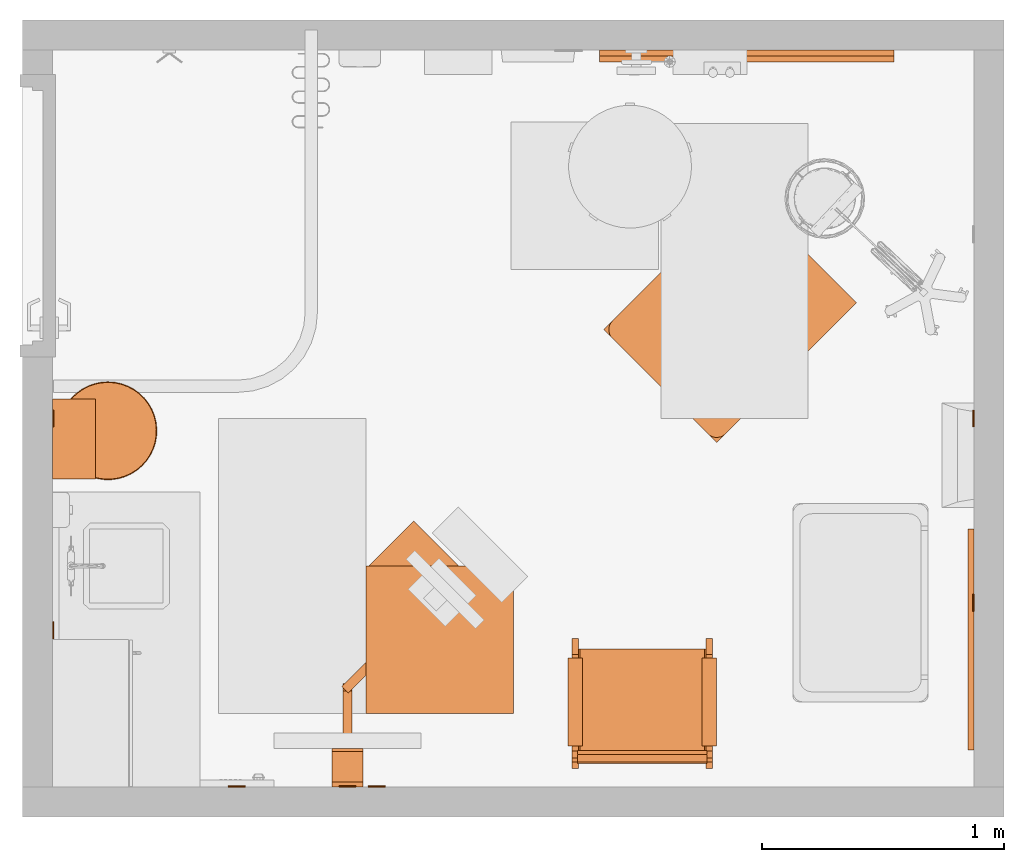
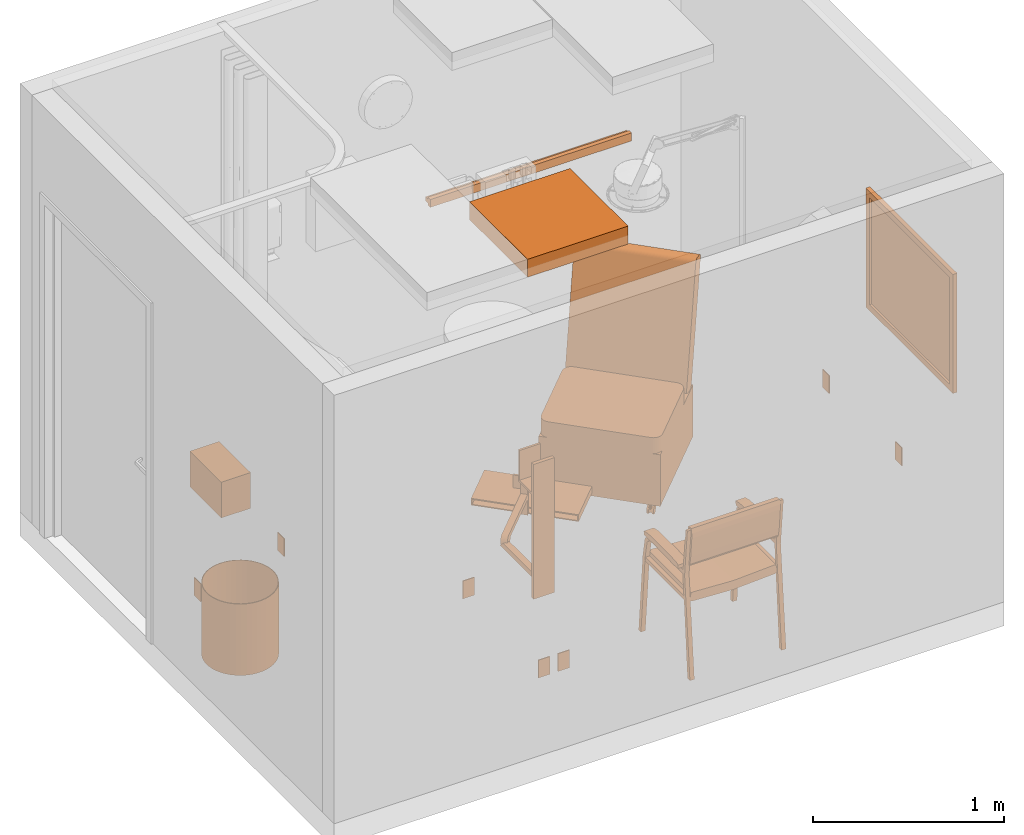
# One storey, part 5 of 9: 15 proxies.
"""IFC2X3 building model written with IfcOpenShell, lengths in feet."""

from ifc_helpers import new_model, entity, si_unit, converted_unit, derived_unit, direction, frame, frame_2d, origin, origin_2d_with_axis, place, context, subcontext, project, spatial, polyline, circle_curve, parameter, trimmed, segment, composite_curve, rectangle, circle, hollow_circle, outline, extrude, source, transform, mapped, type_object, type_shapes, element, save


model = new_model("IFC2X3")

# Units and contexts
model_context = context("Model", 3, precision=0.0001, world=origin(), true_north=direction((6.12303176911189e-17, 1.0)))
body_context = subcontext(model_context, "Body", "Model", "MODEL_VIEW")
ifc_project = project(units=[converted_unit("LENGTHUNIT", "FOOT", entity("IfcRatioMeasure", 0.3048), si_unit("LENGTHUNIT", "METRE"), dimensions=[1, 0, 0, 0, 0, 0, 0]), converted_unit("AREAUNIT", "SQUARE FOOT", entity("IfcRatioMeasure", 0.09290304), si_unit("AREAUNIT", "SQUARE_METRE"), dimensions=[2, 0, 0, 0, 0, 0, 0]), converted_unit("VOLUMEUNIT", "CUBIC FOOT", entity("IfcRatioMeasure", 0.028316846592), si_unit("VOLUMEUNIT", "CUBIC_METRE"), dimensions=[3, 0, 0, 0, 0, 0, 0]), converted_unit("PLANEANGLEUNIT", "DEGREE", entity("IfcRatioMeasure", 0.0174532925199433), si_unit("PLANEANGLEUNIT", "RADIAN"), dimensions=[0, 0, 0, 0, 0, 0, 0]), si_unit("MASSUNIT", "GRAM", prefix="KILO"), derived_unit("MASSDENSITYUNIT", [(si_unit("MASSUNIT", "GRAM", prefix="KILO"), 1), (si_unit("LENGTHUNIT", "METRE"), -3)]), si_unit("TIMEUNIT", "SECOND"), si_unit("FREQUENCYUNIT", "HERTZ"), si_unit("THERMODYNAMICTEMPERATUREUNIT", "DEGREE_CELSIUS"), derived_unit("THERMALTRANSMITTANCEUNIT", [(si_unit("MASSUNIT", "GRAM", prefix="KILO"), 1), (si_unit("THERMODYNAMICTEMPERATUREUNIT", "KELVIN"), -1), (si_unit("TIMEUNIT", "SECOND"), -3)]), derived_unit("VOLUMETRICFLOWRATEUNIT", [(si_unit("LENGTHUNIT", "METRE"), 3), (si_unit("TIMEUNIT", "SECOND"), -1)]), si_unit("ELECTRICCURRENTUNIT", "AMPERE"), si_unit("ELECTRICVOLTAGEUNIT", "VOLT"), si_unit("POWERUNIT", "WATT"), si_unit("FORCEUNIT", "NEWTON"), si_unit("ILLUMINANCEUNIT", "LUX"), si_unit("LUMINOUSFLUXUNIT", "LUMEN"), si_unit("LUMINOUSINTENSITYUNIT", "CANDELA"), derived_unit("USERDEFINED", [(si_unit("MASSUNIT", "GRAM", prefix="KILO"), -1), (si_unit("LENGTHUNIT", "METRE"), -2), (si_unit("TIMEUNIT", "SECOND"), 3), (si_unit("LUMINOUSFLUXUNIT", "LUMEN"), 1)]), derived_unit("LINEARVELOCITYUNIT", [(si_unit("LENGTHUNIT", "METRE"), 1), (si_unit("TIMEUNIT", "SECOND"), -1)]), si_unit("PRESSUREUNIT", "PASCAL"), derived_unit("USERDEFINED", [(si_unit("LENGTHUNIT", "METRE"), -2), (si_unit("MASSUNIT", "GRAM", prefix="KILO"), 1), (si_unit("TIMEUNIT", "SECOND"), -2)])], contexts=[model_context])

# Site, building, storey, space
site_placement = place(None, origin())
site = spatial("IfcSite", under=ifc_project, at=site_placement, Name="Default", CompositionType="ELEMENT")
building_placement = place(site_placement, origin())
building = spatial("IfcBuilding", under=site, at=building_placement, Name="OUTPATIENT / PACT CLINIC (Ch. 265)", CompositionType="ELEMENT")
storey_placement = place(building_placement, origin())
storey = spatial("IfcBuildingStorey", under=building, at=storey_placement, Name="DATUM", CompositionType="ELEMENT", Elevation=0.0)
space_placement = place(storey_placement, origin())
space = spatial("IfcSpace", under=storey, at=space_placement, Name="WRTM2", CompositionType="ELEMENT", InteriorOrExteriorSpace="INTERNAL")

# Proxies
building_element_proxy_type_1 = type_object("IfcBuildingElementProxyType", Name="A5080 - Dispenser, Paper Towel", PredefinedType="NOTDEFINED")
shared_shape_1 = source(origin(), body_context, "Body", "SweptSolid", [
    extrude(rectangle(XDim=0.58333333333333, YDim=1.08333333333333, at=frame_2d((9.99200722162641e-16, 0.0), x_axis=(1.0, 0.0))), frame((0.0, -0.291666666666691, 0.0), z_axis=(0.0, 0.0, 1.0), x_axis=(0.0, 1.0, 0.0)), (0.0, 0.0, 1.0), 0.75),
])
type_shapes(building_element_proxy_type_1, [shared_shape_1])
proxy_1_placement = place(space_placement, frame((209.711487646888, -858.099980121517, 3.5), z_axis=(0.0, 0.0, 1.0), x_axis=(0.0, 1.0, 0.0)))
element("IfcBuildingElementProxy", 1, at=proxy_1_placement, inside=space, type_object=building_element_proxy_type_1, Name="A5080 - Dispenser, Paper Towel:A5080 - Dispenser, Paper Towel", ObjectType="A5080 - Dispenser, Paper Towel", context=body_context, shape_type="MappedRepresentation", body=[
    mapped(shared_shape_1, transform((0.0, 0.0, 0.0), scale=1.0)),
])
building_element_proxy_type_2 = type_object("IfcBuildingElementProxyType", Name="F0205 - Chair, Side With Arms", PredefinedType="NOTDEFINED")
shared_shape_2 = source(origin(), body_context, "Body", "SweptSolid", [
    extrude(outline(polyline([(-0.104007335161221, -0.374369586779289), (-0.027711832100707, -0.374369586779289), (-0.0197350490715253, -0.338348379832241), (0.00592434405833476, -0.182113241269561), (0.0162560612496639, -0.135457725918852), (0.0457826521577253, -0.00212284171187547), (0.0856087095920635, 0.177721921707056), (0.112798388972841, 0.276572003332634), (0.120257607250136, 0.307674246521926), (0.129202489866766, 0.415216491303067), (0.045581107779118, 0.433734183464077), (0.0167028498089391, 0.395704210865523), (-0.0364083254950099, 0.222671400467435), (-0.125070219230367, -0.177704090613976), (-0.13682888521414, -0.27538652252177), (-0.128352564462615, -0.36942248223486), (-0.104007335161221, -0.374369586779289)])), frame((-0.891159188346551, -0.878769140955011, 2.73061112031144), z_axis=(0.0, 1.0, 0.0), x_axis=(0.991475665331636, 0.0, -0.130291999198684)), (0.0, 0.0, 1.0), 1.75919993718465),
    extrude(outline(polyline([(0.0907668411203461, -0.842703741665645), (0.261538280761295, -0.842703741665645), (0.265730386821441, -0.773999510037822), (0.127479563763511, 0.0287496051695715), (-0.0923338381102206, 0.813085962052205), (-0.125373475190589, 0.873420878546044), (-0.279635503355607, 0.800086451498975), (-0.270660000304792, 0.752608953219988), (-0.0560029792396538, -0.0126173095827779), (0.0784907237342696, -0.795927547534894), (0.0907668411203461, -0.842703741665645)])), frame((-0.90556950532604, 0.000822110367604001, 1.62079321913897), z_axis=(1.0, 0.0, 0.0), x_axis=(0.0, -0.219936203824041, -0.975514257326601)), (0.0, 0.0, 1.0), 1.47211210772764),
    extrude(outline(polyline([(-0.552031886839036, -0.234422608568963), (-0.484734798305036, -0.234422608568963), (-0.233837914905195, -0.160903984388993), (0.324339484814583, 0.0422559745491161), (0.453697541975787, 0.101150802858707), (0.564536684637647, 0.176717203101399), (0.51204038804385, 0.250193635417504), (0.420212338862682, 0.216770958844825), (0.254858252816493, 0.145732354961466), (-0.246233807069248, -0.0366502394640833), (-0.436544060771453, -0.0986810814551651), (-0.576302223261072, -0.167740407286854), (-0.552031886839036, -0.234422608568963)])), frame((-0.1510824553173, -1.00916916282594, 2.22827697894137), z_axis=(0.0, 1.0, 0.0), x_axis=(0.939692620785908, 0.0, 0.34202014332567)), (0.0, 0.0, 1.0), 0.198199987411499),
    extrude(outline(polyline([(-0.525375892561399, -0.221085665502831), (-0.458078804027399, -0.221085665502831), (-0.207181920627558, -0.147567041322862), (0.350995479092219, 0.0555929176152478), (0.480353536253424, 0.114487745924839), (0.591192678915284, 0.190054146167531), (0.551062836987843, 0.246221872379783), (0.114629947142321, 0.0873732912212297), (0.281514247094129, 0.159069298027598), (-0.219577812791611, -0.0233132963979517), (-0.409888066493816, -0.0853441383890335), (-0.549646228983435, -0.154403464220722), (-0.525375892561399, -0.221085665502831)])), frame((-0.180692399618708, 0.814330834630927, 2.23169271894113), z_axis=(0.0, 1.0, 0.0), x_axis=(0.939692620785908, 0.0, 0.34202014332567)), (0.0, 0.0, 1.0), 0.196499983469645),
    extrude(outline(polyline([(0.0166377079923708, -0.666422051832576), (0.099971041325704, -0.666422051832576), (-0.0172324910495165, 0.673220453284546), (-0.0993762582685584, 0.659623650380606), (0.0166377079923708, -0.666422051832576)])), frame((-0.182442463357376, -0.954369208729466, 1.61480726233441), z_axis=(0.0, 1.0, 0.0), x_axis=(0.0871557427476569, 0.0, -0.996194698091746)), (0.0, 0.0, 1.0), 0.0833333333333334),
    extrude(outline(polyline([(0.0166377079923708, -0.666422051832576), (0.099971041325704, -0.666422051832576), (-0.0172324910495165, 0.673220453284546), (-0.0993762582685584, 0.659623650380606), (0.0166377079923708, -0.666422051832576)])), frame((-0.182442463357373, 0.867430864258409, 1.61480726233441), z_axis=(0.0, 1.0, 0.0), x_axis=(0.0871557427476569, 0.0, -0.996194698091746)), (0.0, 0.0, 1.0), 0.0833333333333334),
    extrude(outline(polyline([(0.811855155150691, -1.61770011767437), (0.895188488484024, -1.61770011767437), (0.71143329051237, 0.489199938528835), (0.806416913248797, 1.46713632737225), (0.751033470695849, 1.46713632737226), (0.656855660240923, 0.571094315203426), (-0.516612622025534, 0.571094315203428), (-0.653571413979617, 0.441277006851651), (-0.728375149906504, 0.0391907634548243), (-0.871611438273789, -1.61770011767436), (-0.791571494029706, -1.61770011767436), (-0.646611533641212, 0.0391998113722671), (-0.578172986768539, 0.407071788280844), (-0.496044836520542, 0.48919993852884), (0.649788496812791, 0.489199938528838), (0.811855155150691, -1.61770011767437)])), frame((-0.163768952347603, -0.954369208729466, 1.61770011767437), z_axis=(0.0, 1.0, 0.0), x_axis=(-1.0, 0.0, 0.0)), (0.0, 0.0, 1.0), 0.0885709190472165),
    extrude(outline(polyline([(0.811855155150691, -1.61770011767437), (0.895188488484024, -1.61770011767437), (0.71143329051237, 0.489199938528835), (0.806416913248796, 1.46713632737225), (0.751033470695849, 1.46713632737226), (0.656855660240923, 0.571094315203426), (-0.516612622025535, 0.571094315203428), (-0.653571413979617, 0.441277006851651), (-0.728375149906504, 0.0391907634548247), (-0.871611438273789, -1.61770011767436), (-0.791571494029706, -1.61770011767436), (-0.646611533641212, 0.0391998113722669), (-0.578172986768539, 0.407071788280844), (-0.496044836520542, 0.48919993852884), (0.649788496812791, 0.489199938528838), (0.811855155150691, -1.61770011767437)])), frame((-0.1637689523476, 0.867430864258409, 1.61770011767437), z_axis=(0.0, 1.0, 0.0), x_axis=(-1.0, 0.0, 0.0)), (0.0, 0.0, 1.0), 0.0885709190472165),
])
type_shapes(building_element_proxy_type_2, [shared_shape_2])
proxy_2_placement = place(space_placement, frame((217.711487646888, -861.514346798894, 0.0), z_axis=(0.0, 0.0, 1.0), x_axis=(0.0, 1.0, 0.0)))
element("IfcBuildingElementProxy", 2, at=proxy_2_placement, inside=space, type_object=building_element_proxy_type_2, Name="F0205 - Chair, Side With Arms:F0205 - Chair, Side With Arms", ObjectType="F0205 - Chair, Side With Arms", context=body_context, shape_type="MappedRepresentation", body=[
    mapped(shared_shape_2, transform((0.0, 0.0, 0.0), scale=1.0)),
])
building_element_proxy_type_3 = type_object("IfcBuildingElementProxyType", Name="F2000 - Basket, Wastepaper", PredefinedType="NOTDEFINED")
shared_shape_3 = source(origin(), body_context, "Body", "SweptSolid", [
    extrude(circle(Radius=0.666666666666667, at=frame_2d((0.0, -1.07702971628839e-15), x_axis=(1.0, 0.0))), origin(), (0.0, 0.0, 1.0), 0.0104166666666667),
    extrude(hollow_circle(Radius=0.666666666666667, WallThickness=0.0104166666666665, at=frame_2d((0.0, -1.07702971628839e-15), x_axis=(1.0, 0.0))), frame((0.0, 0.0, 0.0104166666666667)), (0.0, 0.0, 1.0), 1.48958333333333),
])
type_shapes(building_element_proxy_type_3, [shared_shape_3])
proxy_3_placement = place(space_placement, frame((210.461487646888, -857.989970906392, 0.0), z_axis=(0.0, 0.0, 1.0), x_axis=(0.0, 1.0, 0.0)))
element("IfcBuildingElementProxy", 3, at=proxy_3_placement, inside=space, type_object=building_element_proxy_type_3, Name="F2000 - Basket, Wastepaper:F2000 - Basket, Wastepaper", ObjectType="F2000 - Basket, Wastepaper", context=body_context, shape_type="MappedRepresentation", body=[
    mapped(shared_shape_3, transform((0.0, 0.0, 0.0), scale=1.0)),
])
building_element_proxy_type_4 = type_object("IfcBuildingElementProxyType", Name="F3025 - Board, Bulletin, Wood Framed", PredefinedType="NOTDEFINED")
shared_shape_4 = source(origin(), body_context, "Body", "SweptSolid", [
    extrude(rectangle(XDim=0.0416666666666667, YDim=2.74999999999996, at=origin_2d_with_axis()), frame((0.0, -0.020833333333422, 0.124999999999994), z_axis=(0.0, 0.0, 1.0), x_axis=(0.0, 1.0, 0.0)), (0.0, 0.0, 1.0), 2.25000000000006),
    extrude(outline(polyline([(-1.49999999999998, -1.25), (1.49999999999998, -1.25), (1.49999999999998, 1.25), (-1.49999999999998, 1.25), (-1.49999999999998, -1.25)]), holes=[polyline([(-1.37499999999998, -1.125), (-1.37499999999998, 1.12500000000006), (1.37499999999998, 1.12500000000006), (1.37499999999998, -1.125), (-1.37499999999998, -1.125)])]), frame((0.0, -0.0833333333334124, 1.25), z_axis=(0.0, 1.0, 0.0), x_axis=(-1.0, 0.0, 0.0)), (0.0, 0.0, 1.0), 0.0833333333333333),
])
type_shapes(building_element_proxy_type_4, [shared_shape_4])
proxy_4_placement = place(space_placement, frame((222.211487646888, -860.823304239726, 4.0), z_axis=(0.0, 0.0, 1.0), x_axis=(0.0, -1.0, 0.0)))
element("IfcBuildingElementProxy", 4, at=proxy_4_placement, inside=space, type_object=building_element_proxy_type_4, Name="F3025 - Board, Bulletin, Wood Framed:F3025 - Board, Bulletin, Wood Framed", ObjectType="F3025 - Board, Bulletin, Wood Framed", context=body_context, shape_type="MappedRepresentation", body=[
    mapped(shared_shape_4, transform((0.0, 0.0, 0.0), scale=1.0)),
])
building_element_proxy_type_5 = type_object("IfcBuildingElementProxyType", Name="M1803 - Workstation, Computer, Wall Mounted", PredefinedType="NOTDEFINED")
shared_shape_5 = source(origin(), body_context, "Body", "SweptSolid", [
    extrude(circle(Radius=0.104166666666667, at=frame_2d((1.0547118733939e-15, 3.336446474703e-16), x_axis=(1.0, 0.0))), frame((-0.0810226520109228, -1.34888430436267, 0.333333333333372), z_axis=(0.707106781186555, -0.70710678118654, 0.0), x_axis=(0.0, 0.0, 1.0)), (0.0, 0.0, 1.0), 0.125000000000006),
    extrude(outline(composite_curve([segment(polyline([(0.0520833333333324, -0.592708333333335), (0.0520833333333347, 0.644791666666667)]), True, "CONTINUOUS"), segment(polyline([(0.0520833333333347, 0.644791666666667), (-0.0520833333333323, 0.644791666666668)]), True, "CONTINUOUS"), segment(polyline([(-0.0520833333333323, 0.644791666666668), (-0.0520833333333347, -0.696875)]), True, "CONTINUOUS"), segment(trimmed(circle_curve(frame_2d((0.0520833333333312, -0.696875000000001), x_axis=(1.0, 0.0)), 0.104166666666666), [parameter(89.9999999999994)], [parameter(180.0)], True, "PARAMETER"), False, "CONTINUOUS")], self_intersect=False)), frame((-0.0624999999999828, -0.711458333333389, 0.281250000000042), z_axis=(-1.0, 0.0, 0.0), x_axis=(0.0, 0.0, 1.0)), (0.0, 0.0, -1.0), 0.125000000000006),
    extrude(outline(composite_curve([segment(polyline([(0.0520833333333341, -0.651041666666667), (0.0520833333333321, 0.598958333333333)]), True, "CONTINUOUS"), segment(polyline([(0.0520833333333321, 0.598958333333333), (-0.0520833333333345, 0.598958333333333)]), True, "CONTINUOUS"), segment(polyline([(-0.0520833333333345, 0.598958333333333), (-0.0520833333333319, -0.546875)]), True, "CONTINUOUS"), segment(trimmed(circle_curve(frame_2d((-0.0520833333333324, -0.651041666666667), x_axis=(1.0, 0.0)), 0.104166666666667), [parameter(1.01777749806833e-13)], [parameter(90.0000000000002)], True, "PARAMETER"), False, "CONTINUOUS")], self_intersect=False)), frame((-0.452990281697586, -1.89762862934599, 0.385416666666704), z_axis=(0.707106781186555, -0.70710678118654, 0.0), x_axis=(0.0, 0.0, 1.0)), (0.0, 0.0, -1.0), 0.125000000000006),
    extrude(outline(polyline([(-0.0729166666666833, -0.95833333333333), (0.0729166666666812, -0.95833333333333), (0.0729166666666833, 0.95833333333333), (-0.0729166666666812, 0.95833333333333), (-0.0729166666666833, -0.95833333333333)]), holes=[polyline([(-0.05208333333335, -0.937499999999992), (-0.052083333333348, 0.937499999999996), (0.0520833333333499, 0.937499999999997), (0.0520833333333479, -0.937499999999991), (-0.05208333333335, -0.937499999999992)])]), frame((-1.5747857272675, -2.93103572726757, 0.0729166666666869), z_axis=(0.707106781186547, 0.707106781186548, 0.0), x_axis=(0.0, 0.0, -1.0)), (0.0, 0.0, 1.0), 0.883333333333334),
    extrude(rectangle(XDim=0.0666666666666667, YDim=0.416666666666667, at=origin_2d_with_axis()), frame((0.0, -0.0333333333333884, 0.0), z_axis=(0.0, 0.0, 1.0), x_axis=(0.0, 1.0, 0.0)), (0.0, 0.0, 1.0), 0.11949518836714),
    extrude(outline(polyline([(-0.208333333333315, -0.0270833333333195), (-0.0625000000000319, -0.0270833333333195), (-0.0625000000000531, 0.014583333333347), (0.0625000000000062, 0.014583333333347), (0.0625000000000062, -0.0270833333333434), (0.208333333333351, -0.0270833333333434), (0.208333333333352, 0.0395833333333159), (-0.208333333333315, 0.0395833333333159), (-0.208333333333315, -0.0270833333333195)])), frame((0.0, -0.0395833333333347, 0.119495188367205)), (0.0, 0.0, 1.0), 2.0471714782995),
    extrude(outline(polyline([(-0.194444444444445, 0.125), (0.430555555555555, 0.125), (0.430555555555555, 0.166666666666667), (-0.236111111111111, 0.166666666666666), (-0.236111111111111, -0.291666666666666), (-0.194444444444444, -0.291666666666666), (-0.194444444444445, 0.125)])), frame((-0.208333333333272, -0.358333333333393, 2.40277777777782), z_axis=(1.0, 0.0, 0.0), x_axis=(0.0, 0.0, 1.0)), (0.0, 0.0, 1.0), 0.416666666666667),
    extrude(rectangle(XDim=0.0416666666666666, YDim=0.416666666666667, at=frame_2d((4.16333634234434e-17, -5.55111512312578e-17), x_axis=(1.0, 0.0))), frame((-0.964906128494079, -2.3211561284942, 0.503601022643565), z_axis=(0.0, 0.0, 1.0), x_axis=(0.707106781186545, 0.70710678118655, 0.0)), (0.0, 0.0, 1.0), 0.267232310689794),
    extrude(rectangle(XDim=0.125000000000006, YDim=0.0416666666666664, at=frame_2d((-1.94289029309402e-16, 1.16226472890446e-16), x_axis=(1.0, 0.0))), frame((-0.935443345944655, -2.29169334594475, 0.0), z_axis=(0.0, 0.0, 1.0), x_axis=(-0.707106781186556, 0.70710678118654, 0.0)), (0.0, 0.0, 1.0), 0.666666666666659),
    extrude(rectangle(XDim=0.0666666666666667, YDim=0.416666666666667, at=origin_2d_with_axis()), frame((0.0, -0.0333333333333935, 2.16666666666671), z_axis=(0.0, 0.0, 1.0), x_axis=(0.0, 1.0, 0.0)), (0.0, 0.0, 1.0), 0.666666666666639),
])
type_shapes(building_element_proxy_type_5, [shared_shape_5])
proxy_5_placement = place(space_placement, frame((213.711507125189, -862.823304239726, 3.0), z_axis=(0.0, 0.0, 1.0), x_axis=(-1.0, 0.0, 0.0)))
element("IfcBuildingElementProxy", 5, at=proxy_5_placement, inside=space, type_object=building_element_proxy_type_5, Name="M1803 - Workstation, Computer, Wall Mounted:M1803 - Workstation, Computer, Wall Mounted", ObjectType="M1803 - Workstation, Computer, Wall Mounted", context=body_context, shape_type="MappedRepresentation", body=[
    mapped(shared_shape_5, transform((0.0, 0.0, 0.0), scale=1.0)),
])
building_element_proxy_type_6 = type_object("IfcBuildingElementProxyType", Name="Exam/Treatment Table with Cabinet", PredefinedType="NOTDEFINED")
shared_shape_6 = source(origin(), body_context, "Body", "SweptSolid", [
    extrude(circle(Radius=0.0833333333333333, at=frame_2d((0.0, -1.38777878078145e-16), x_axis=(1.0, 0.0))), frame((-0.843750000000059, 0.432291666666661, 0.0833333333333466), z_axis=(1.0, 0.0, 0.0), x_axis=(0.0, 1.0, 0.0)), (0.0, 0.0, 1.0), 0.0312500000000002),
    extrude(circle(Radius=0.0260416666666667, at=frame_2d((0.0, -5.55111512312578e-17), x_axis=(1.0, 0.0))), frame((-0.87500000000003, 0.463541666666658, 0.0801325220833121), z_axis=(0.0, 0.0, 1.0), x_axis=(-1.0, 0.0, 0.0)), (0.0, 0.0, 1.0), 0.211534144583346),
    extrude(circle(Radius=0.0625, at=frame_2d((0.0, -2.77555756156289e-16), x_axis=(1.0, 0.0))), frame((-0.90625000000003, 0.432291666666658, 0.0833333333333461), z_axis=(1.0, 0.0, 0.0), x_axis=(0.0, -1.0, 0.0)), (0.0, 0.0, 1.0), 0.0625),
    extrude(circle(Radius=0.0833333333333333, at=frame_2d((0.0, -1.38777878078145e-16), x_axis=(1.0, 0.0))), frame((-0.93750000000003, 0.432291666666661, 0.0833333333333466), z_axis=(1.0, 0.0, 0.0), x_axis=(0.0, 1.0, 0.0)), (0.0, 0.0, 1.0), 0.0312500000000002),
    extrude(circle(Radius=0.0833333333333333, at=frame_2d((0.0, -3.7470027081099e-16), x_axis=(1.0, 0.0))), frame((0.81250000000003, 0.432291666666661, 0.083333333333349), z_axis=(1.0, 0.0, 0.0), x_axis=(0.0, 1.0, 0.0)), (0.0, 0.0, 1.0), 0.0312500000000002),
    extrude(circle(Radius=0.0260416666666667, at=frame_2d((0.0, -5.55111512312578e-17), x_axis=(1.0, 0.0))), frame((0.875000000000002, 0.463541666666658, 0.0801325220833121)), (0.0, 0.0, 1.0), 0.211534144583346),
    extrude(circle(Radius=0.0625, at=frame_2d((0.0, -1.11022302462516e-16), x_axis=(1.0, 0.0))), frame((0.843750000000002, 0.432291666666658, 0.0833333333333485), z_axis=(1.0, 0.0, 0.0), x_axis=(0.0, -1.0, 0.0)), (0.0, 0.0, 1.0), 0.0625),
    extrude(circle(Radius=0.0833333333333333, at=frame_2d((0.0, -3.7470027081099e-16), x_axis=(1.0, 0.0))), frame((0.906250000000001, 0.432291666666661, 0.083333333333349), z_axis=(1.0, 0.0, 0.0), x_axis=(0.0, 1.0, 0.0)), (0.0, 0.0, 1.0), 0.0312500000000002),
    extrude(circle(Radius=0.0833333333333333, at=frame_2d((0.0, -1.38777878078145e-16), x_axis=(1.0, 0.0))), frame((-0.843750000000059, -1.41145833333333, 0.0833333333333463), z_axis=(1.0, 0.0, 0.0), x_axis=(0.0, -1.0, 0.0)), (0.0, 0.0, 1.0), 0.0312500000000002),
    extrude(circle(Radius=0.0260416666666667, at=origin_2d_with_axis()), frame((-0.87500000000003, -1.44270833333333, 0.0801325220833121), z_axis=(0.0, 0.0, 1.0), x_axis=(-1.0, 0.0, 0.0)), (0.0, 0.0, 1.0), 0.211534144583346),
    extrude(circle(Radius=0.0625, at=frame_2d((0.0, -2.77555756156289e-16), x_axis=(1.0, 0.0))), frame((-0.90625000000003, -1.41145833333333, 0.0833333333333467), z_axis=(1.0, 0.0, 0.0), x_axis=(0.0, 1.0, 0.0)), (0.0, 0.0, 1.0), 0.0625),
    extrude(circle(Radius=0.0833333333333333, at=frame_2d((0.0, -1.38777878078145e-16), x_axis=(1.0, 0.0))), frame((-0.93750000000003, -1.41145833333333, 0.0833333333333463), z_axis=(1.0, 0.0, 0.0), x_axis=(0.0, -1.0, 0.0)), (0.0, 0.0, 1.0), 0.0312500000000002),
    extrude(circle(Radius=0.0833333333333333, at=frame_2d((0.0, -3.7470027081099e-16), x_axis=(1.0, 0.0))), frame((0.81250000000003, -1.41145833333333, 0.0833333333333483), z_axis=(1.0, 0.0, 0.0), x_axis=(0.0, -1.0, 0.0)), (0.0, 0.0, 1.0), 0.0312500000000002),
    extrude(circle(Radius=0.0260416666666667, at=origin_2d_with_axis()), frame((0.875000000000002, -1.44270833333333, 0.0801325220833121)), (0.0, 0.0, 1.0), 0.211534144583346),
    extrude(circle(Radius=0.0625, at=frame_2d((0.0, -1.11022302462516e-16), x_axis=(1.0, 0.0))), frame((0.843750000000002, -1.41145833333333, 0.0833333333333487), z_axis=(1.0, 0.0, 0.0), x_axis=(0.0, 1.0, 0.0)), (0.0, 0.0, 1.0), 0.0625),
    extrude(circle(Radius=0.0833333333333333, at=frame_2d((0.0, -3.7470027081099e-16), x_axis=(1.0, 0.0))), frame((0.906250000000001, -1.41145833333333, 0.0833333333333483), z_axis=(1.0, 0.0, 0.0), x_axis=(0.0, -1.0, 0.0)), (0.0, 0.0, 1.0), 0.0312500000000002),
    extrude(rectangle(XDim=2.1666666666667, YDim=2.18316882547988, at=origin_2d_with_axis()), frame((0.0, -0.491748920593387, 0.291666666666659), z_axis=(0.0, 0.0, 1.0), x_axis=(-1.0, 0.0, 0.0)), (0.0, 0.0, 1.0), 1.08333333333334),
    extrude(outline(composite_curve([segment(trimmed(circle_curve(frame_2d((-0.221258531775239, -1.14772335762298), x_axis=(1.0, 0.0)), 0.0833333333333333), [parameter(255.0)], [parameter(345.0)], True, "PARAMETER"), True, "CONTINUOUS"), segment(polyline([(-0.140764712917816, -1.16929161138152), (0.462739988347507, 1.08301859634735)]), True, "CONTINUOUS"), segment(trimmed(circle_curve(frame_2d((0.382246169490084, 1.10458685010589), x_axis=(1.0, 0.0)), 0.0833333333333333), [parameter(345.000000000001)], [parameter(75.0000000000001)], True, "PARAMETER"), True, "CONTINUOUS"), segment(polyline([(0.403814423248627, 1.18508066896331), (0.242826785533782, 1.2282171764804)]), True, "CONTINUOUS"), segment(trimmed(circle_curve(frame_2d((0.221258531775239, 1.14772335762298), x_axis=(1.0, 0.0)), 0.0833333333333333), [parameter(74.9999999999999)], [parameter(165.0)], True, "PARAMETER"), True, "CONTINUOUS"), segment(polyline([(0.140764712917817, 1.16929161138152), (-0.462739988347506, -1.08301859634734)]), True, "CONTINUOUS"), segment(trimmed(circle_curve(frame_2d((-0.382246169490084, -1.10458685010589), x_axis=(1.0, 0.0)), 0.0833333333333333), [parameter(165.0)], [parameter(255.0)], True, "PARAMETER"), True, "CONTINUOUS"), segment(polyline([(-0.403814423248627, -1.18508066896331), (-0.242826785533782, -1.2282171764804)]), True, "CONTINUOUS")], self_intersect=False)), frame((-1.08333333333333, 0.632933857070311, 2.62668441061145), z_axis=(1.0, 0.0, 0.0), x_axis=(0.0, 1.0, 0.0)), (0.0, 0.0, 1.0), 2.16666666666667),
    extrude(outline(composite_curve([segment(polyline([(-0.916666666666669, -0.854166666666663), (0.91666666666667, -0.854166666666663)]), True, "CONTINUOUS"), segment(trimmed(circle_curve(frame_2d((0.916666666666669, -0.687499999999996), x_axis=(-1.0, 0.0)), 0.166666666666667), [parameter(90.0000000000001)], [parameter(180.0)], True, "PARAMETER"), True, "CONTINUOUS"), segment(polyline([(1.08333333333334, -0.687499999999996), (1.08333333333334, 0.687499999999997)]), True, "CONTINUOUS"), segment(trimmed(circle_curve(frame_2d((0.916666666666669, 0.687499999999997), x_axis=(-1.0, 0.0)), 0.166666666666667), [parameter(180.0)], [parameter(270.0)], True, "PARAMETER"), True, "CONTINUOUS"), segment(polyline([(0.916666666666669, 0.854166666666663), (-0.91666666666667, 0.854166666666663)]), True, "CONTINUOUS"), segment(trimmed(circle_curve(frame_2d((-0.916666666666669, 0.687499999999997), x_axis=(-1.0, 0.0)), 0.166666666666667), [parameter(270.0)], [parameter(0.0)], True, "PARAMETER"), True, "CONTINUOUS"), segment(polyline([(-1.08333333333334, 0.687499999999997), (-1.08333333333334, -0.687499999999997)]), True, "CONTINUOUS"), segment(trimmed(circle_curve(frame_2d((-0.916666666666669, -0.687499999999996), x_axis=(-1.0, 0.0)), 0.166666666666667), [parameter(0.0)], [parameter(90.0000000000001)], True, "PARAMETER"), True, "CONTINUOUS")], self_intersect=False)), frame((0.0, -0.729166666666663, 1.375), z_axis=(0.0, 0.0, 1.0), x_axis=(-1.0, 0.0, 0.0)), (0.0, 0.0, 1.0), 0.333333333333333),
])
type_shapes(building_element_proxy_type_6, [shared_shape_6])
proxy_6_placement = place(space_placement, frame((219.072917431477, -856.264177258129, 0.0), z_axis=(0.0, 0.0, 1.0), x_axis=(0.707106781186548, -0.707106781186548, 0.0)))
element("IfcBuildingElementProxy", 6, at=proxy_6_placement, inside=space, type_object=building_element_proxy_type_6, Name="M9025 - Exam Table:Exam/Treatment Table with Cabinet", ObjectType="Exam/Treatment Table with Cabinet", context=body_context, shape_type="MappedRepresentation", body=[
    mapped(shared_shape_6, transform((0.0, 0.0, 0.0), scale=1.0)),
])
building_element_proxy_type_7 = type_object("IfcBuildingElementProxyType", Name="A1132 - Rail, Accessory Mounting", PredefinedType="NOTDEFINED")
shared_shape_7 = source(origin(), body_context, "Body", "SweptSolid", [
    extrude(outline(polyline([(0.0416666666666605, 0.0), (0.0833333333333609, 0.0), (0.083333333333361, 0.0833333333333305), (-0.0833333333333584, 0.0833333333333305), (-0.0833333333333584, 0.0), (-0.0416666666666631, 0.0), (-0.0416666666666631, -0.0833333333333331), (0.0416666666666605, -0.0833333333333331), (0.0416666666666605, 0.0)])), frame((-2.0, -0.0833333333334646, 0.0833333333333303), z_axis=(1.0, 0.0, 0.0), x_axis=(0.0, 0.0, 1.0)), (0.0, 0.0, 1.0), 4.0),
])
type_shapes(building_element_proxy_type_7, [shared_shape_7])
proxy_7_placement = place(space_placement, frame((219.128154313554, -852.823304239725, 4.0)))
element("IfcBuildingElementProxy", 7, at=proxy_7_placement, inside=space, type_object=building_element_proxy_type_7, Name="A1132 - Rail, Accessory Mounting:A1132 - Rail, Accessory Mounting", ObjectType="A1132 - Rail, Accessory Mounting", context=body_context, shape_type="MappedRepresentation", body=[
    mapped(shared_shape_7, transform((0.0, 0.0, 0.0), scale=1.0)),
])
building_element_proxy_type_8 = type_object("IfcBuildingElementProxyType", Name="Duplex", PredefinedType="NOTDEFINED")
shared_shape_8 = source(origin(), body_context, "Body", "SweptSolid", [
    extrude(rectangle(XDim=0.0156249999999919, YDim=0.229166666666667, at=origin_2d_with_axis()), frame((0.0, 0.210937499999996, 0.0), z_axis=(0.0, 0.0, 1.0), x_axis=(0.0, 1.0, 0.0)), (0.0, 0.0, 1.0), 0.37500000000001),
])
type_shapes(building_element_proxy_type_8, [shared_shape_8])
proxy_8_placement = place(space_placement, frame((213.711507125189, -863.026429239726, 1.3125)))
element("IfcBuildingElementProxy", 8, at=proxy_8_placement, inside=space, type_object=building_element_proxy_type_8, Name="Outlet, Duplex, Wall:Duplex", ObjectType="Duplex", context=body_context, shape_type="MappedRepresentation", body=[
    mapped(shared_shape_8, transform((0.0, 0.0, 0.0), scale=1.0)),
])
for number, where, z_axis, x_axis, name in (
    (9, (209.508362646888, -860.693095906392, 4.0), (0.0, 0.0, 1.0), (0.0, -1.0, 0.0), "Outlet, Duplex, Wall:Duplex"),
    (10, (209.508362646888, -857.823328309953, 1.3125), (0.0, 0.0, 1.0), (0.0, -1.0, 0.0), "Outlet, Duplex, Wall:Duplex"),
    (11, (222.414612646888, -857.823304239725, 1.31250000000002), (0.0, 0.0, 1.0), (0.0, 1.0, 0.0), "Outlet, Duplex, Wall:Duplex"),
    (12, (222.414612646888, -860.323304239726, 1.31250000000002), (0.0, 0.0, 1.0), (0.0, 1.0, 0.0), "Outlet, Duplex, Wall:Duplex"),
):
    element("IfcBuildingElementProxy", number, at=place(space_placement, frame(where, z_axis=z_axis, x_axis=x_axis)), inside=space, type_object=building_element_proxy_type_8, Name=name, ObjectType="Duplex", context=body_context, shape_type="MappedRepresentation", body=[
        mapped(shared_shape_8, transform((0.0, 0.0, 0.0), scale=1.0)),
    ])
building_element_proxy_type_9 = type_object("IfcBuildingElementProxyType", Name="Telephone/Data", PredefinedType="NOTDEFINED")
shared_shape_9 = source(origin(), body_context, "Body", "SweptSolid", [
    extrude(rectangle(XDim=0.0156249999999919, YDim=0.229166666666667, at=origin_2d_with_axis()), frame((0.0, 0.210937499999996, 0.0), z_axis=(0.0, 0.0, 1.0), x_axis=(0.0, 1.0, 0.0)), (0.0, 0.0, 1.0), 0.375),
])
type_shapes(building_element_proxy_type_9, [shared_shape_9])
for number, where, name in (
    (13, (214.107340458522, -863.026429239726, 1.3125), "Outlet, Communications:Telephone/Data"),
    (14, (212.211487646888, -863.026429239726, 3.5), "Outlet, Communications:Telephone/Data"),
):
    element("IfcBuildingElementProxy", number, at=place(space_placement, frame(where)), inside=space, type_object=building_element_proxy_type_9, Name=name, ObjectType="Telephone/Data", context=body_context, shape_type="MappedRepresentation", body=[
        mapped(shared_shape_9, transform((0.0, 0.0, 0.0), scale=1.0)),
    ])
building_element_proxy_type_10 = type_object("IfcBuildingElementProxyType", Name="24\" x 24\"", PredefinedType="NOTDEFINED")
shared_shape_10 = source(origin(), body_context, "Body", "SweptSolid", [
    extrude(rectangle(XDim=2.00000000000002, YDim=2.00000000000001, at=origin_2d_with_axis()), frame((0.0, 0.0, 8.0), z_axis=(0.0, 0.0, 1.0), x_axis=(0.0, 1.0, 0.0)), (0.0, 0.0, 1.0), 0.375),
])
type_shapes(building_element_proxy_type_10, [shared_shape_10])
proxy_9_placement = place(space_placement, frame((214.961487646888, -860.823304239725, 1.0)))
element("IfcBuildingElementProxy", 15, at=proxy_9_placement, inside=space, type_object=building_element_proxy_type_10, Name="Supply Diffuser:24\" x 24\"", ObjectType="24\" x 24\"", context=body_context, shape_type="MappedRepresentation", body=[
    mapped(shared_shape_10, transform((0.0, 0.0, 0.0), scale=1.0)),
])

save(model, "model.ifc")
